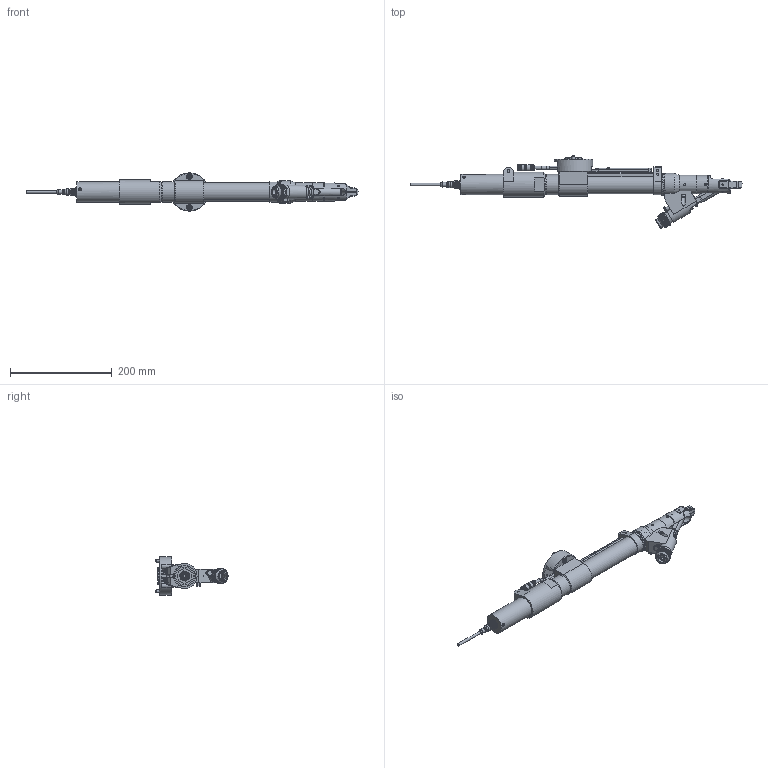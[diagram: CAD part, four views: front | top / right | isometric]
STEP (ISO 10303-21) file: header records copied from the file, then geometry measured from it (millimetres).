
FILE_DESCRIPTION(/* description */ ('© Copyright 2018 – Urheberrechtshinweis Diese CAD-Daten sind urheberrechtlich geschützt. Das Urheberrecht liegt, soweit nicht ausdrücklich anders gekennzeichnet, bei Stöger Automation GmbH. Bitte fragen Sie uns, falls Sie die CAD-Daten vervielfältigen oder','CAx-IF Rec.Pracs.---Representation and Presentation of Product Manufacturing Information (PMI)---4.0---2014-10-13'),/* implementation_level */ '2;1');
FILE_NAME(/* name */ 'N:\06_Marketing\06_13_Buschbacher\RSX_Bilder\3D_Step_file_automatic_screwdriver_for_screws_RSX12.stp',/* time_stamp */ '2019-02-12T13:11:09+01:00',/* author */ ('Stöger Automation GmbH'),/* organization */ ('Stöger Automation GmbH'),/* preprocessor_version */ 'ST-DEVELOPER v17',/* originating_system */ 'Autodesk Inventor 2018',/* authorisation */ '');
FILE_SCHEMA (('AP242_MANAGED_MODEL_BASED_3D_ENGINEERING_MIM_LF { 1 0 10303 442 1 1 4 }'));
Products named in the file (1): MKT-RSX12.ipt
Bounding box: 651.1 x 142.08 x 75 mm (x, y, z)
Volume: 506629.3 mm3; surface area: 263769.6 mm2
Topology: 7 solids, 38 shells, 2354 faces, 6605 edges, 4422 vertices
Faces by surface type: plane 1210, cylinder 788, cone 199, torus 92, bspline 36, sphere 29
Full cylindrical faces by diameter (mm): 0.8 x5, 1 x5, 1.3 x2, 2 x7, 2.1 x2, 2.459 x5, 2.5 x2, 2.53 x1, 2.6 x1, 3 x8, 3.03 x4, 3.04 x3, 3.1 x5, 3.2 x7, 3.242 x9, 3.3 x4, 3.5 x1, 3.8 x2, 4 x18, 4.1 x3, 4.134 x6, 4.2 x2, 4.5 x11, 4.917 x3, 4.95 x1, 5 x3, 5.2 x2, 5.5 x4, 5.7 x4, 6 x10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
Entity records: 90750 total; most frequent: CARTESIAN_POINT 30688, ORIENTED_EDGE 13124, DIRECTION 12492, EDGE_CURVE 6562, AXIS2_PLACEMENT_3D 4873, VERTEX_POINT 4422, LINE 2746, VECTOR 2746
